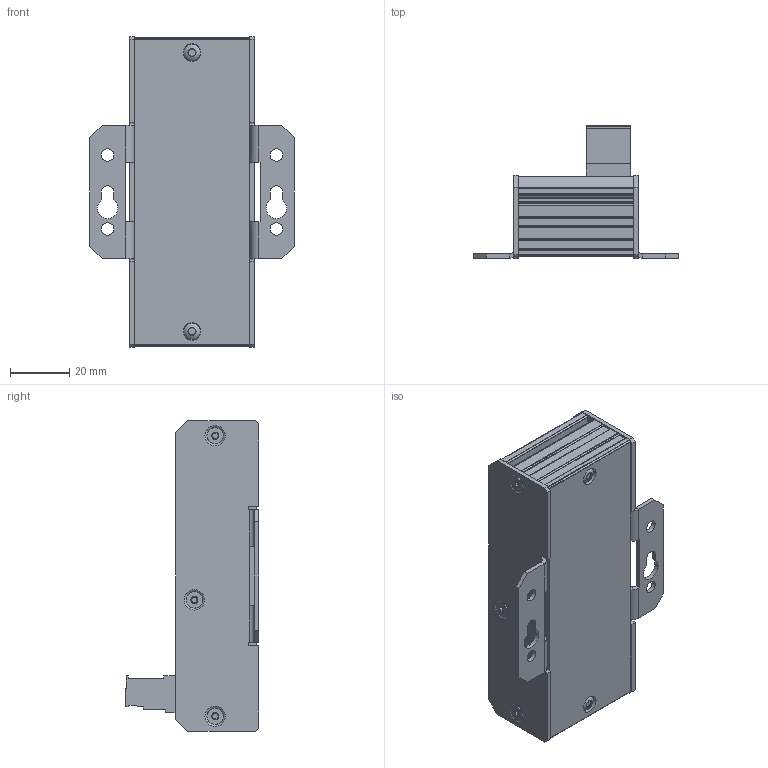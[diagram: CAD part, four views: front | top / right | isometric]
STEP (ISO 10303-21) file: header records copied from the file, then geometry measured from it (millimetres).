
FILE_DESCRIPTION(('TFLEX Exchange Step'),'2;1');
FILE_NAME('TZCA01402A_NITE-RW5-FE.stp', '2019-10-25T12:26:46+02:00',('User'),('Unknown organisation'),'TFLEX Exchange 2019.0','T-FLEX CAD','Unknown authorisation');
FILE_SCHEMA( ('AUTOMOTIVE_DESIGN { 1 0 10303 214 1 1 1 1 }') );
Length unit declared in the file: millimetre
Products named in the file (1): TZCA01402A_NITE-RW5-FE
Bounding box: 69 x 45 x 105 mm (x, y, z)
Volume: 111652.4 mm3; surface area: 33477.4 mm2
Topology: 2 solids, 10 shells, 1491 faces, 4147 edges, 2752 vertices
Faces by surface type: plane 986, cylinder 380, bspline 103, cone 15, extrusion 5, sphere 2
Full cylindrical faces by diameter (mm): 0.5 x40, 1.3 x3, 2.2 x3, 3 x9, 3.2 x6, 3.75 x3, 3.95 x3, 5.5 x8, 6 x2
Entity records: 56145 total; most frequent: CARTESIAN_POINT 20379, ORIENTED_EDGE 8214, DIRECTION 5767, EDGE_CURVE 4107, VERTEX_POINT 2752, AXIS2_PLACEMENT_3D 2032, B_SPLINE_CURVE_WITH_KNOTS 1766, VECTOR 1703
